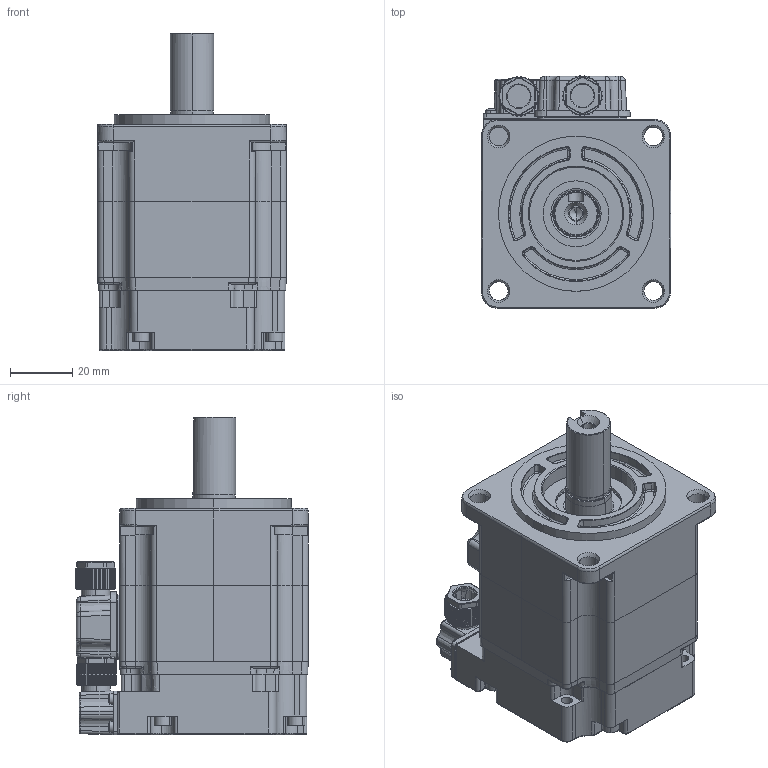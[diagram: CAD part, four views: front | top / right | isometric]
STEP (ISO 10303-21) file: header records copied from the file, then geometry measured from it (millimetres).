
FILE_DESCRIPTION (( 'STEP AP203' ), '1' );
FILE_NAME ('60-200W ³£¹æ.STEP', '2024-08-06T02:11:20', ( 'MicroSoft' ), ( 'MicroSoft' ), 'SwSTEP 2.0', 'SolidWorks 2020', '' );
FILE_SCHEMA (( 'CONFIG_CONTROL_DESIGN' ));
Length unit declared in the file: millimetre
Products named in the file (12): ZE60 ____________.STEP; ______1.stp.STEP; ____nsk  629Z.STEP; GB_uT 818-2000[______________M2__6]_M2__6.STEP; GB_uT 70.1-2008[________________M3__25]_M3__25.STEP; 60-200W 都寞; 60 __________ ________2.STEP; GB__T276-94__________6202-2RZ.STEP; Z60A-01-02A(60__-______)_200w.STEP; 60______.stp.STEP; 60 __________ ________1.STEP; ______2.stp.STEP
Assembly tree (17 placements, depth 2):
  60-200W 都寞
    60 __________ ________1.STEP
    GB__T276-94__________6202-2RZ.STEP
    ____nsk  629Z.STEP
    GB_uT 70.1-2008[________________M3__25]_M3__25.STEP  x4
    GB_uT 818-2000[______________M2__6]_M2__6.STEP  x4
    ______1.stp.STEP
    60______.stp.STEP
    ______2.stp.STEP
    ZE60 ____________.STEP
    Z60A-01-02A(60__-______)_200w.STEP
    60 __________ ________2.STEP
Bounding box: 61.13 x 74.9 x 102.2 mm (x, y, z)
Volume: 110899.1 mm3; surface area: 80743.8 mm2
Topology: 17 solids, 17 shells, 2115 faces, 5440 edges, 3341 vertices
Faces by surface type: cylinder 728, plane 633, cone 333, bspline 167, torus 140, sphere 114
Entity records: 70935 total; most frequent: CARTESIAN_POINT 25822, ORIENTED_EDGE 9546, DIRECTION 8718, EDGE_CURVE 4773, AXIS2_PLACEMENT_3D 3496, VERTEX_POINT 2989, EDGE_LOOP 2064, ADVANCED_FACE 1860
